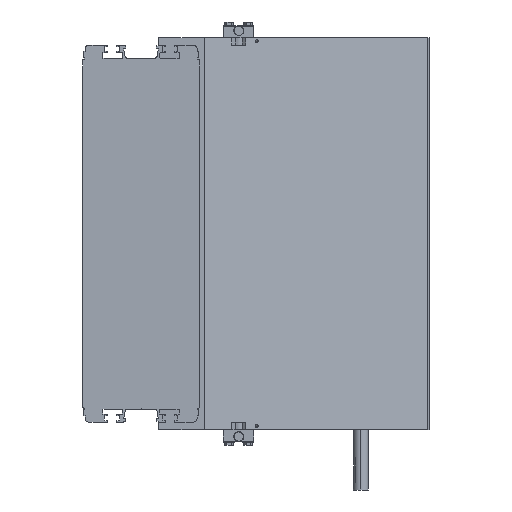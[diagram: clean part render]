
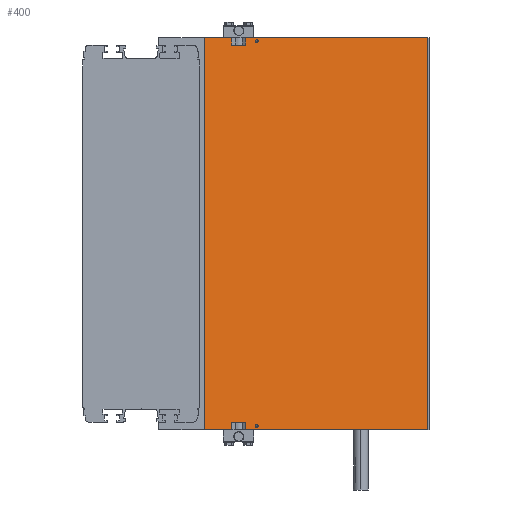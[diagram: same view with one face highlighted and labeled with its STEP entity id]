
A CAD part, left-side view. The second image highlights one B-rep face of the part: STEP entity #400.
In plain terms, the highlighted planar face has unit normal (-0.966, -0.259, 0).
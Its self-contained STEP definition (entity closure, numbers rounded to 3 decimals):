
#11 = VECTOR ( 'NONE', #9736, 1000. ) ;
#68 = ORIENTED_EDGE ( 'NONE', *, *, #1132, .F. ) ;
#90 = CARTESIAN_POINT ( 'NONE',  ( -111.473, -376.068, 257. ) ) ;
#133 = CARTESIAN_POINT ( 'NONE',  ( -175.442, -137.33, 247. ) ) ;
#400 = ADVANCED_FACE ( 'NONE', ( #21414, #4057, #19045 ), #18474, .F. ) ;
#404 = LINE ( 'NONE', #16002, #6142 ) ;
#709 = ORIENTED_EDGE ( 'NONE', *, *, #6289, .F. ) ;
#820 = VECTOR ( 'NONE', #4312, 1000. ) ;
#1088 = VERTEX_POINT ( 'NONE', #9988 ) ;
#1132 = EDGE_CURVE ( 'NONE', #1356, #8975, #10298, .T. ) ;
#1356 = VERTEX_POINT ( 'NONE', #4963 ) ;
#1397 = VECTOR ( 'NONE', #22369, 1000. ) ;
#1511 = VERTEX_POINT ( 'NONE', #17170 ) ;
#2206 = EDGE_CURVE ( 'NONE', #1511, #1088, #22294, .T. ) ;
#2230 = CARTESIAN_POINT ( 'NONE',  ( -190., -83., -257. ) ) ;
#2250 = CARTESIAN_POINT ( 'NONE',  ( -198.022, -53.06, -247. ) ) ;
#2399 = VERTEX_POINT ( 'NONE', #15067 ) ;
#2468 = VECTOR ( 'NONE', #20639, 1000. ) ;
#2483 = AXIS2_PLACEMENT_3D ( 'NONE', #2484, #13923, #12234 ) ;
#2484 = CARTESIAN_POINT ( 'NONE',  ( -171.624, -151.581, 252. ) ) ;
#2701 = ORIENTED_EDGE ( 'NONE', *, *, #4548, .F. ) ;
#2761 = DIRECTION ( 'NONE',  ( -0.259, 0.966, 0. ) ) ;
#2768 = LINE ( 'NONE', #5589, #2468 ) ;
#2847 = VERTEX_POINT ( 'NONE', #10363 ) ;
#2850 = EDGE_LOOP ( 'NONE', ( #24184, #4951 ) ) ;
#2879 = CARTESIAN_POINT ( 'NONE',  ( -180.442, -118.67, 257. ) ) ;
#2951 = CARTESIAN_POINT ( 'NONE',  ( -175.442, -137.33, -257. ) ) ;
#3370 = VECTOR ( 'NONE', #22153, 1000. ) ;
#3646 = AXIS2_PLACEMENT_3D ( 'NONE', #3959, #13621, #17370 ) ;
#3866 = ORIENTED_EDGE ( 'NONE', *, *, #12743, .F. ) ;
#3959 = CARTESIAN_POINT ( 'NONE',  ( -171.624, -151.581, 252. ) ) ;
#4057 = FACE_BOUND ( 'NONE', #2850, .T. ) ;
#4113 = ORIENTED_EDGE ( 'NONE', *, *, #7523, .T. ) ;
#4312 = DIRECTION ( 'NONE',  ( 0., 0., 1. ) ) ;
#4358 = EDGE_CURVE ( 'NONE', #15701, #8975, #4739, .T. ) ;
#4435 = DIRECTION ( 'NONE',  ( -0.259, 0.966, 0. ) ) ;
#4548 = EDGE_CURVE ( 'NONE', #21454, #6059, #16730, .T. ) ;
#4739 = LINE ( 'NONE', #23888, #24230 ) ;
#4951 = ORIENTED_EDGE ( 'NONE', *, *, #13924, .F. ) ;
#4952 = DIRECTION ( 'NONE',  ( 0.259, -0.966, 0. ) ) ;
#4963 = CARTESIAN_POINT ( 'NONE',  ( -111.473, -376.068, -257. ) ) ;
#5124 = ORIENTED_EDGE ( 'NONE', *, *, #16632, .F. ) ;
#5179 = LINE ( 'NONE', #18505, #3370 ) ;
#5229 = EDGE_LOOP ( 'NONE', ( #16801, #709, #17336, #18271, #68, #8861, #4113, #10286, #2701, #5486, #7940, #3866 ) ) ;
#5419 = LINE ( 'NONE', #133, #11 ) ;
#5486 = ORIENTED_EDGE ( 'NONE', *, *, #7487, .T. ) ;
#5589 = CARTESIAN_POINT ( 'NONE',  ( -190., -83., 257. ) ) ;
#5800 = VECTOR ( 'NONE', #4435, 1000. ) ;
#5947 = LINE ( 'NONE', #21620, #820 ) ;
#6059 = VERTEX_POINT ( 'NONE', #16614 ) ;
#6119 = VECTOR ( 'NONE', #9835, 1000. ) ;
#6142 = VECTOR ( 'NONE', #13943, 1000. ) ;
#6289 = EDGE_CURVE ( 'NONE', #11842, #2847, #22348, .T. ) ;
#6614 = EDGE_CURVE ( 'NONE', #1356, #17448, #404, .T. ) ;
#7094 = VECTOR ( 'NONE', #14779, 1000. ) ;
#7147 = VERTEX_POINT ( 'NONE', #12229 ) ;
#7457 = VECTOR ( 'NONE', #2761, 1000. ) ;
#7487 = EDGE_CURVE ( 'NONE', #21454, #20032, #5179, .T. ) ;
#7523 = EDGE_CURVE ( 'NONE', #17448, #20655, #2768, .T. ) ;
#7531 = CARTESIAN_POINT ( 'NONE',  ( -171.624, -151.581, -252. ) ) ;
#7940 = ORIENTED_EDGE ( 'NONE', *, *, #13522, .T. ) ;
#8861 = ORIENTED_EDGE ( 'NONE', *, *, #6614, .T. ) ;
#8975 = VERTEX_POINT ( 'NONE', #2951 ) ;
#9330 = EDGE_CURVE ( 'NONE', #6059, #20655, #5419, .T. ) ;
#9736 = DIRECTION ( 'NONE',  ( 0., 0., 1. ) ) ;
#9835 = DIRECTION ( 'NONE',  ( 0.259, -0.966, 0. ) ) ;
#9988 = CARTESIAN_POINT ( 'NONE',  ( -171.08, -153.609, -252. ) ) ;
#10286 = ORIENTED_EDGE ( 'NONE', *, *, #9330, .F. ) ;
#10298 = LINE ( 'NONE', #2230, #5800 ) ;
#10345 = CIRCLE ( 'NONE', #20035, 2.1 ) ;
#10363 = CARTESIAN_POINT ( 'NONE',  ( -180.442, -118.67, -257. ) ) ;
#10393 = CIRCLE ( 'NONE', #2483, 2.1 ) ;
#11240 = AXIS2_PLACEMENT_3D ( 'NONE', #14902, #16434, #4952 ) ;
#11572 = EDGE_CURVE ( 'NONE', #11842, #15701, #14509, .T. ) ;
#11842 = VERTEX_POINT ( 'NONE', #23956 ) ;
#12229 = CARTESIAN_POINT ( 'NONE',  ( -190., -83., -257. ) ) ;
#12234 = DIRECTION ( 'NONE',  ( 0.259, -0.966, 0. ) ) ;
#12743 = EDGE_CURVE ( 'NONE', #7147, #2399, #5947, .T. ) ;
#12870 = DIRECTION ( 'NONE',  ( -0.259, 0.966, 0. ) ) ;
#13177 = LINE ( 'NONE', #16796, #20620 ) ;
#13477 = CARTESIAN_POINT ( 'NONE',  ( -180.442, -118.67, 247. ) ) ;
#13522 = EDGE_CURVE ( 'NONE', #20032, #2399, #20584, .T. ) ;
#13579 = CARTESIAN_POINT ( 'NONE',  ( -172.167, -149.552, 252. ) ) ;
#13621 = DIRECTION ( 'NONE',  ( -0.966, -0.259, 0. ) ) ;
#13923 = DIRECTION ( 'NONE',  ( -0.966, -0.259, 0. ) ) ;
#13924 = EDGE_CURVE ( 'NONE', #14317, #19253, #10393, .T. ) ;
#13943 = DIRECTION ( 'NONE',  ( 0., 0., 1. ) ) ;
#14317 = VERTEX_POINT ( 'NONE', #13579 ) ;
#14504 = CARTESIAN_POINT ( 'NONE',  ( -175.442, -137.33, -247. ) ) ;
#14509 = LINE ( 'NONE', #2250, #6119 ) ;
#14619 = DIRECTION ( 'NONE',  ( -0.259, 0.966, 0. ) ) ;
#14779 = DIRECTION ( 'NONE',  ( 0., 0., -1. ) ) ;
#14816 = DIRECTION ( 'NONE',  ( 0.259, -0.966, 0. ) ) ;
#14902 = CARTESIAN_POINT ( 'NONE',  ( -171.624, -151.581, -252. ) ) ;
#15057 = DIRECTION ( 'NONE',  ( -0.966, -0.259, 0. ) ) ;
#15067 = CARTESIAN_POINT ( 'NONE',  ( -190., -83., 257. ) ) ;
#15701 = VERTEX_POINT ( 'NONE', #14504 ) ;
#16002 = CARTESIAN_POINT ( 'NONE',  ( -111.473, -376.068, 257. ) ) ;
#16347 = CARTESIAN_POINT ( 'NONE',  ( -175.442, -137.33, 257. ) ) ;
#16431 = CARTESIAN_POINT ( 'NONE',  ( -190., -83., 257. ) ) ;
#16434 = DIRECTION ( 'NONE',  ( -0.966, -0.259, 0. ) ) ;
#16475 = EDGE_LOOP ( 'NONE', ( #5124, #20281 ) ) ;
#16614 = CARTESIAN_POINT ( 'NONE',  ( -175.442, -137.33, 247. ) ) ;
#16632 = EDGE_CURVE ( 'NONE', #1088, #1511, #10345, .T. ) ;
#16730 = LINE ( 'NONE', #20756, #1397 ) ;
#16731 = CIRCLE ( 'NONE', #3646, 2.1 ) ;
#16796 = CARTESIAN_POINT ( 'NONE',  ( -190., -83., -257. ) ) ;
#16801 = ORIENTED_EDGE ( 'NONE', *, *, #18201, .F. ) ;
#17170 = CARTESIAN_POINT ( 'NONE',  ( -172.167, -149.552, -252. ) ) ;
#17336 = ORIENTED_EDGE ( 'NONE', *, *, #11572, .T. ) ;
#17370 = DIRECTION ( 'NONE',  ( 0.259, -0.966, 0. ) ) ;
#17448 = VERTEX_POINT ( 'NONE', #90 ) ;
#18201 = EDGE_CURVE ( 'NONE', #2847, #7147, #13177, .T. ) ;
#18271 = ORIENTED_EDGE ( 'NONE', *, *, #4358, .T. ) ;
#18295 = CARTESIAN_POINT ( 'NONE',  ( -180.442, -118.67, -247. ) ) ;
#18450 = DIRECTION ( 'NONE',  ( 0., 0., -1. ) ) ;
#18474 = PLANE ( 'NONE',  #19802 ) ;
#18499 = EDGE_CURVE ( 'NONE', #19253, #14317, #16731, .T. ) ;
#18505 = CARTESIAN_POINT ( 'NONE',  ( -180.442, -118.67, 247. ) ) ;
#19045 = FACE_OUTER_BOUND ( 'NONE', #5229, .T. ) ;
#19253 = VERTEX_POINT ( 'NONE', #23853 ) ;
#19802 = AXIS2_PLACEMENT_3D ( 'NONE', #24244, #20385, #12870 ) ;
#20032 = VERTEX_POINT ( 'NONE', #2879 ) ;
#20035 = AXIS2_PLACEMENT_3D ( 'NONE', #7531, #15057, #14816 ) ;
#20281 = ORIENTED_EDGE ( 'NONE', *, *, #2206, .F. ) ;
#20385 = DIRECTION ( 'NONE',  ( 0.966, 0.259, 0. ) ) ;
#20584 = LINE ( 'NONE', #16431, #7457 ) ;
#20620 = VECTOR ( 'NONE', #14619, 1000. ) ;
#20639 = DIRECTION ( 'NONE',  ( -0.259, 0.966, 0. ) ) ;
#20655 = VERTEX_POINT ( 'NONE', #16347 ) ;
#20756 = CARTESIAN_POINT ( 'NONE',  ( -198.022, -53.06, 247. ) ) ;
#21414 = FACE_BOUND ( 'NONE', #16475, .T. ) ;
#21454 = VERTEX_POINT ( 'NONE', #13477 ) ;
#21620 = CARTESIAN_POINT ( 'NONE',  ( -190., -83., -257. ) ) ;
#22153 = DIRECTION ( 'NONE',  ( 0., 0., 1. ) ) ;
#22294 = CIRCLE ( 'NONE', #11240, 2.1 ) ;
#22348 = LINE ( 'NONE', #18295, #7094 ) ;
#22369 = DIRECTION ( 'NONE',  ( 0.259, -0.966, 0. ) ) ;
#23853 = CARTESIAN_POINT ( 'NONE',  ( -171.08, -153.609, 252. ) ) ;
#23888 = CARTESIAN_POINT ( 'NONE',  ( -175.442, -137.33, -247. ) ) ;
#23956 = CARTESIAN_POINT ( 'NONE',  ( -180.442, -118.67, -247. ) ) ;
#24184 = ORIENTED_EDGE ( 'NONE', *, *, #18499, .F. ) ;
#24230 = VECTOR ( 'NONE', #18450, 1000. ) ;
#24244 = CARTESIAN_POINT ( 'NONE',  ( -190., -83., -257. ) ) ;
